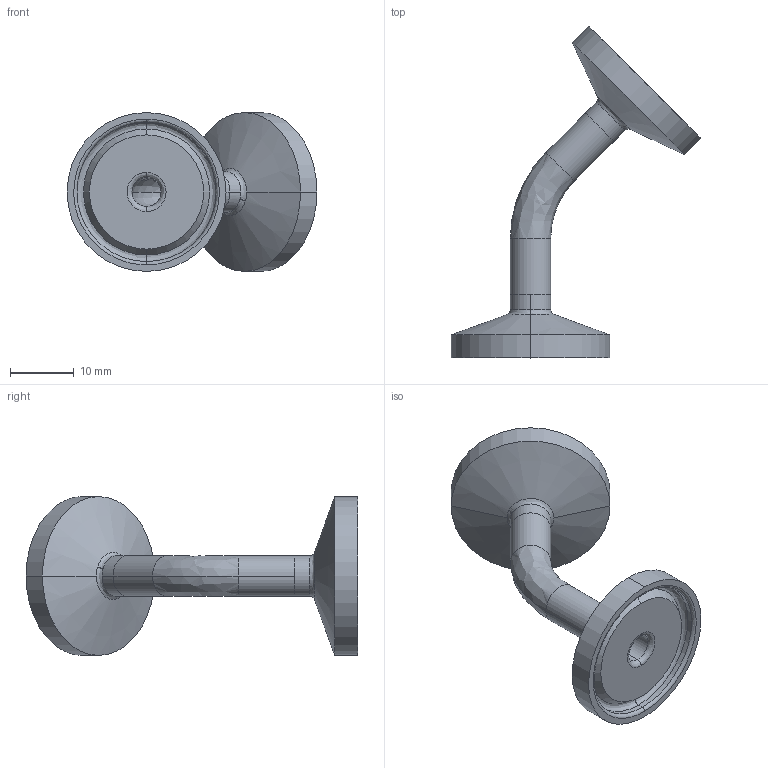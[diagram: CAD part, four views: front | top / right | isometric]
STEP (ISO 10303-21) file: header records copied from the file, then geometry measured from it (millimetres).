
FILE_DESCRIPTION (( 'STEP AP214' ), '1' );
FILE_NAME ('TEG2K6L.25-...STEP', '2016-05-22T07:11:46', ( 'eran' ), ( '' ), 'SwSTEP 2.0', 'SolidWorks 2016', '' );
FILE_SCHEMA (( 'AUTOMOTIVE_DESIGN' ));
Length unit declared in the file: millimetre
Products named in the file (1): TEG2K6L.25-..
Bounding box: 39.29 x 52.2 x 24.99 mm (x, y, z)
Volume: 4529.1 mm3; surface area: 4261.9 mm2
Topology: 3 solids, 3 shells, 60 faces, 132 edges, 80 vertices
Faces by surface type: cylinder 24, bspline 20, plane 8, cone 8
Entity records: 1960 total; most frequent: CARTESIAN_POINT 597, DIRECTION 298, ORIENTED_EDGE 264, AXIS2_PLACEMENT_3D 133, EDGE_CURVE 132, CIRCLE 92, VERTEX_POINT 80, EDGE_LOOP 68
